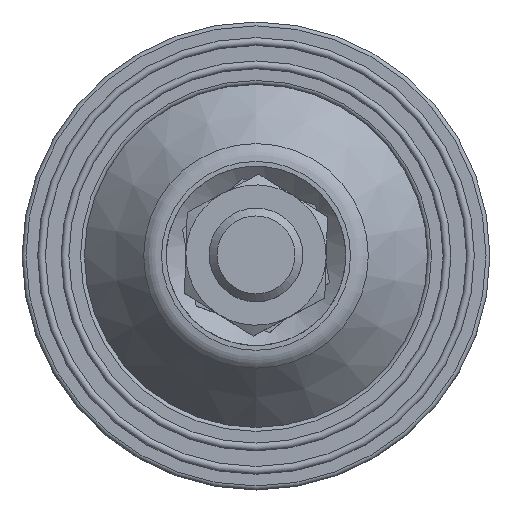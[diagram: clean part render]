
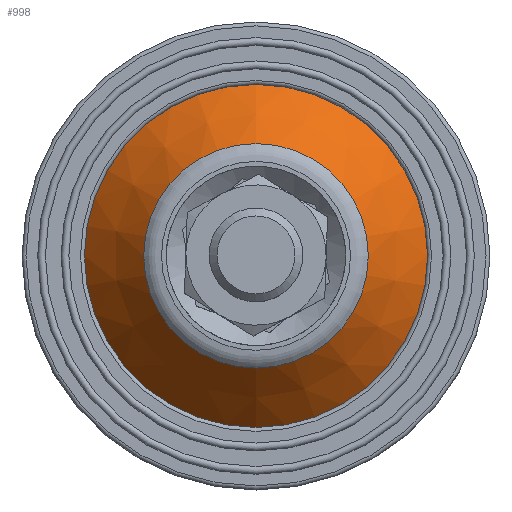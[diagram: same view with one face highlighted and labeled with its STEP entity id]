
A CAD part, top view. The second image highlights one B-rep face of the part: STEP entity #998.
In plain terms, the highlighted conical face has half-angle 40.365 degrees and reference radius 17.75 mm.
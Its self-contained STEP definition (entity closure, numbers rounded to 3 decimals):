
#956=CARTESIAN_POINT('',(66.47,34.802,-29.515));
#957=VERTEX_POINT('',#956);
#958=CARTESIAN_POINT('',(66.47,49.2,-29.515));
#959=DIRECTION('',(0.0,0.0,1.0));
#960=DIRECTION('',(0.0,1.0,0.0));
#961=AXIS2_PLACEMENT_3D('',#958,#959,#960);
#962=CIRCLE('',#961,14.398);
#963=EDGE_CURVE('',#957,#957,#962,.T.);
#979=CARTESIAN_POINT('',(66.47,49.2,-33.458));
#980=DIRECTION('',(0.,0.,-1.0));
#981=DIRECTION('',(0.0,-1.0,0.0));
#982=AXIS2_PLACEMENT_3D('',#979,#980,#981);
#983=CONICAL_SURFACE('',#982,17.75,40.365);
#984=CARTESIAN_POINT('',(66.47,27.2,-38.458));
#985=VERTEX_POINT('',#984);
#986=CARTESIAN_POINT('',(66.47,49.2,-38.458));
#987=DIRECTION('',(0.0,0.0,1.0));
#988=DIRECTION('',(0.0,-1.0,0.0));
#989=AXIS2_PLACEMENT_3D('',#986,#987,#988);
#990=CIRCLE('',#989,22.0);
#991=EDGE_CURVE('',#985,#985,#990,.T.);
#992=ORIENTED_EDGE('',*,*,#991,.T.);
#993=EDGE_LOOP('',(#992));
#994=FACE_OUTER_BOUND('',#993,.T.);
#995=ORIENTED_EDGE('',*,*,#963,.F.);
#996=EDGE_LOOP('',(#995));
#997=FACE_BOUND('',#996,.T.);
#998=ADVANCED_FACE('',(#994,#997),#983,.T.);
